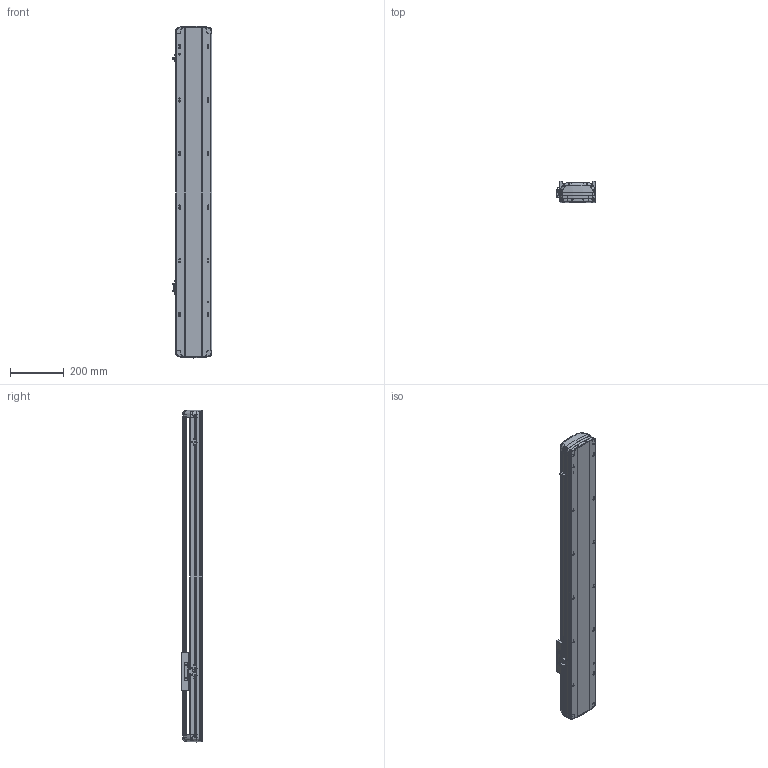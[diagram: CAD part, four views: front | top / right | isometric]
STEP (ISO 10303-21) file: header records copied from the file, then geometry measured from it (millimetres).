
FILE_DESCRIPTION (( 'STEP AP214' ), '1' );
FILE_NAME ('RTH14-XX-850-B-M20-C4.STEP', '2025-10-25T02:23:16', ( 'Microsoft' ), ( 'Microsoft' ), 'SwSTEP 2.0', 'SolidWorks 2018', '' );
FILE_SCHEMA (( 'AUTOMOTIVE_DESIGN' ));
Length unit declared in the file: millimetre
Products named in the file (7): N_RTH14-B-007奻裔^RTH14-XX-XX-B-M20-C4; RTH14-XX-850-B-M20-C4; N_RTH14-R-004-SFSR16賑釱^RTH14-XX-XX-B-M20-C4; N_RTH13-L-012感应片（外置）^RTH14-XX-XX-B-M20-C4; N_RTH14-B-011P菁釱^RTH14-XX-XX-B-M20-C4; N_RTH14-GY-001P^RTH14-XX-XX-B-M20-C4; N_OMRON EE-SX672 传感器^RTH14-XX-XX-B-M20-C4
Assembly tree (9 placements, depth 2):
  RTH14-XX-850-B-M20-C4
    N_RTH14-B-011P菁釱^RTH14-XX-XX-B-M20-C4
    N_RTH14-B-007奻裔^RTH14-XX-XX-B-M20-C4
    N_RTH13-L-012感应片（外置）^RTH14-XX-XX-B-M20-C4
    N_OMRON EE-SX672 传感器^RTH14-XX-XX-B-M20-C4  x3
    N_RTH14-R-004-SFSR16賑釱^RTH14-XX-XX-B-M20-C4
    N_RTH14-GY-001P^RTH14-XX-XX-B-M20-C4  x2
Bounding box: 148.5 x 78.03 x 1238.99 mm (x, y, z)
Volume: 5027980.3 mm3; surface area: 1155018.9 mm2
Topology: 9 solids, 9 shells, 1936 faces, 5458 edges, 3554 vertices
Faces by surface type: plane 983, bspline 450, cylinder 439, cone 56, torus 8
Entity records: 47346 total; most frequent: CARTESIAN_POINT 21030, ORIENTED_EDGE 5932, DIRECTION 4389, EDGE_CURVE 2966, VERTEX_POINT 1940, LINE 1661, VECTOR 1661, AXIS2_PLACEMENT_3D 1364
